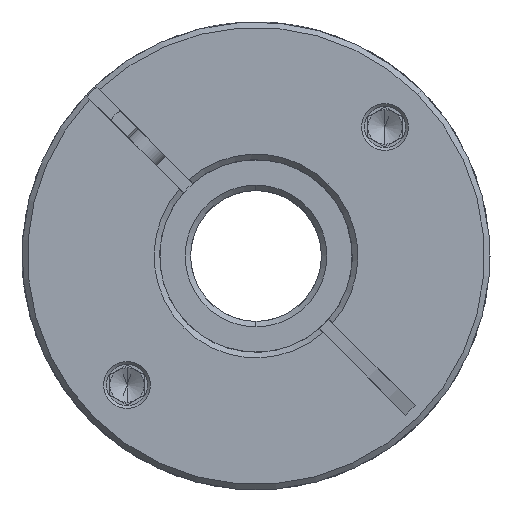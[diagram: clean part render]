
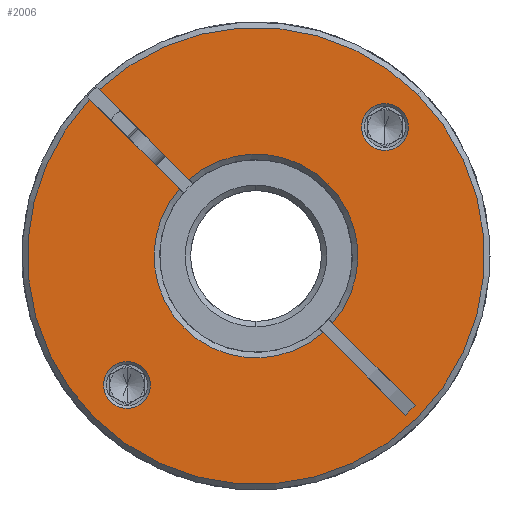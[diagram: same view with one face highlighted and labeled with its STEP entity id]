
A CAD part, front view. The second image highlights one B-rep face of the part: STEP entity #2006.
In plain terms, the highlighted planar face has unit normal (0, -1, 0).
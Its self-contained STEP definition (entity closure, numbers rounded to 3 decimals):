
#104 = CARTESIAN_POINT ( 'NONE',  ( 18.988, -67.045, 44.862 ) ) ;
#139 = ORIENTED_EDGE ( 'NONE', *, *, #16829, .T. ) ;
#522 = CARTESIAN_POINT ( 'NONE',  ( -12.469, -67.045, 79.148 ) ) ;
#524 = LINE ( 'NONE', #104, #7787 ) ;
#939 = AXIS2_PLACEMENT_3D ( 'NONE', #4760, #16400, #3404 ) ;
#1053 = VERTEX_POINT ( 'NONE', #3156 ) ;
#1165 = CARTESIAN_POINT ( 'NONE',  ( -26.211, -67.045, 44.524 ) ) ;
#1292 = DIRECTION ( 'NONE',  ( 0.707, 0., 0.707 ) ) ;
#1477 = CARTESIAN_POINT ( 'NONE',  ( -21.473, -67.045, 49.262 ) ) ;
#1891 = VECTOR ( 'NONE', #8295, 1000. ) ;
#1942 = EDGE_CURVE ( 'NONE', #17531, #2303, #8207, .T. ) ;
#2006 = ADVANCED_FACE ( 'NONE', ( #18612, #20946, #17578 ), #13340, .T. ) ;
#2303 = VERTEX_POINT ( 'NONE', #1165 ) ;
#2388 = VERTEX_POINT ( 'NONE', #18225 ) ;
#2716 = CARTESIAN_POINT ( 'NONE',  ( 18.407, -67.045, 89.142 ) ) ;
#3156 = CARTESIAN_POINT ( 'NONE',  ( -19.069, -67.045, 51.666 ) ) ;
#3312 = AXIS2_PLACEMENT_3D ( 'NONE', #20678, #10597, #5788 ) ;
#3392 = EDGE_CURVE ( 'NONE', #13677, #2388, #3955, .T. ) ;
#3404 = DIRECTION ( 'NONE',  ( 0.707, 0., 0.707 ) ) ;
#3461 = VERTEX_POINT ( 'NONE', #17049 ) ;
#3499 = CARTESIAN_POINT ( 'NONE',  ( -2.028, -67.045, 68.707 ) ) ;
#3558 = AXIS2_PLACEMENT_3D ( 'NONE', #1477, #6719, #5092 ) ;
#3841 = EDGE_LOOP ( 'NONE', ( #12519, #19449, #14983, #139, #11684, #17302, #9684, #6046, #15603, #18844, #6224 ) ) ;
#3955 = LINE ( 'NONE', #15331, #10973 ) ;
#4216 = ORIENTED_EDGE ( 'NONE', *, *, #20061, .T. ) ;
#4671 = EDGE_CURVE ( 'NONE', #2388, #12057, #524, .T. ) ;
#4760 = CARTESIAN_POINT ( 'NONE',  ( -2.735, -67.045, 68. ) ) ;
#4819 = DIRECTION ( 'NONE',  ( 0.707, 0., 0.707 ) ) ;
#5092 = DIRECTION ( 'NONE',  ( 0.707, 0., 0.707 ) ) ;
#5101 = CIRCLE ( 'NONE', #8397, 3.4 ) ;
#5456 = DIRECTION ( 'NONE',  ( 0.707, 0., 0.707 ) ) ;
#5686 = AXIS2_PLACEMENT_3D ( 'NONE', #9898, #14756, #4819 ) ;
#5788 = DIRECTION ( 'NONE',  ( 0.707, 0., 0.707 ) ) ;
#6046 = ORIENTED_EDGE ( 'NONE', *, *, #3392, .T. ) ;
#6224 = ORIENTED_EDGE ( 'NONE', *, *, #13357, .T. ) ;
#6229 = CARTESIAN_POINT ( 'NONE',  ( -23.878, -67.045, 46.858 ) ) ;
#6247 = LINE ( 'NONE', #3499, #18974 ) ;
#6719 = DIRECTION ( 'NONE',  ( 0., 1., 0. ) ) ;
#6861 = CARTESIAN_POINT ( 'NONE',  ( -3.442, -67.045, 67.293 ) ) ;
#7206 = CARTESIAN_POINT ( 'NONE',  ( -2.735, -67.045, 68. ) ) ;
#7290 = CIRCLE ( 'NONE', #10488, 3.4 ) ;
#7293 = DIRECTION ( 'NONE',  ( 0.707, 0., 0.707 ) ) ;
#7387 = VERTEX_POINT ( 'NONE', #522 ) ;
#7618 = CARTESIAN_POINT ( 'NONE',  ( -13.883, -67.045, 77.734 ) ) ;
#7787 = VECTOR ( 'NONE', #11710, 1000. ) ;
#8207 = CIRCLE ( 'NONE', #16542, 33.2 ) ;
#8238 = CIRCLE ( 'NONE', #3558, 3.4 ) ;
#8295 = DIRECTION ( 'NONE',  ( 0.707, 0., -0.707 ) ) ;
#8397 = AXIS2_PLACEMENT_3D ( 'NONE', #9351, #11460, #14773 ) ;
#8407 = DIRECTION ( 'NONE',  ( 0.707, 0., -0.707 ) ) ;
#8528 = AXIS2_PLACEMENT_3D ( 'NONE', #8890, #10575, #7293 ) ;
#8886 = VERTEX_POINT ( 'NONE', #18596 ) ;
#8890 = CARTESIAN_POINT ( 'NONE',  ( -2.735, -67.045, 68. ) ) ;
#8945 = CARTESIAN_POINT ( 'NONE',  ( -21.473, -67.045, 49.262 ) ) ;
#9092 = CARTESIAN_POINT ( 'NONE',  ( -2.735, -67.045, 68. ) ) ;
#9144 = VERTEX_POINT ( 'NONE', #6229 ) ;
#9267 = LINE ( 'NONE', #16727, #20212 ) ;
#9290 = CARTESIAN_POINT ( 'NONE',  ( 6.999, -67.045, 56.852 ) ) ;
#9351 = CARTESIAN_POINT ( 'NONE',  ( 16.003, -67.045, 86.738 ) ) ;
#9674 = LINE ( 'NONE', #6861, #1891 ) ;
#9684 = ORIENTED_EDGE ( 'NONE', *, *, #19784, .T. ) ;
#9707 = DIRECTION ( 'NONE',  ( 0., 1., 0. ) ) ;
#9852 = DIRECTION ( 'NONE',  ( 0.707, 0., 0.707 ) ) ;
#9898 = CARTESIAN_POINT ( 'NONE',  ( -2.735, -67.045, 68. ) ) ;
#10488 = AXIS2_PLACEMENT_3D ( 'NONE', #8945, #17222, #15416 ) ;
#10534 = EDGE_CURVE ( 'NONE', #1053, #9144, #7290, .T. ) ;
#10575 = DIRECTION ( 'NONE',  ( 0., 1., 0. ) ) ;
#10592 = AXIS2_PLACEMENT_3D ( 'NONE', #7206, #17016, #5456 ) ;
#10597 = DIRECTION ( 'NONE',  ( 0., 1., 0. ) ) ;
#10973 = VECTOR ( 'NONE', #16864, 1000. ) ;
#11107 = EDGE_CURVE ( 'NONE', #3461, #7387, #6247, .T. ) ;
#11460 = DIRECTION ( 'NONE',  ( 0., 1., 0. ) ) ;
#11684 = ORIENTED_EDGE ( 'NONE', *, *, #11107, .T. ) ;
#11710 = DIRECTION ( 'NONE',  ( -0.707, 0., -0.707 ) ) ;
#12057 = VERTEX_POINT ( 'NONE', #17558 ) ;
#12236 = CIRCLE ( 'NONE', #17841, 3.4 ) ;
#12519 = ORIENTED_EDGE ( 'NONE', *, *, #12638, .F. ) ;
#12638 = EDGE_CURVE ( 'NONE', #17531, #15766, #9267, .T. ) ;
#12848 = CARTESIAN_POINT ( 'NONE',  ( 7.73, -67.045, 78.465 ) ) ;
#12960 = CARTESIAN_POINT ( 'NONE',  ( -26.908, -67.045, 90.758 ) ) ;
#13261 = CARTESIAN_POINT ( 'NONE',  ( -2.735, -67.045, 68. ) ) ;
#13340 = PLANE ( 'NONE',  #939 ) ;
#13357 = EDGE_CURVE ( 'NONE', #15695, #15766, #18884, .T. ) ;
#13522 = CIRCLE ( 'NONE', #10592, 33.2 ) ;
#13677 = VERTEX_POINT ( 'NONE', #15145 ) ;
#14015 = DIRECTION ( 'NONE',  ( 0., 1., 0. ) ) ;
#14756 = DIRECTION ( 'NONE',  ( 0., -1., 0. ) ) ;
#14773 = DIRECTION ( 'NONE',  ( 0.707, 0., 0.707 ) ) ;
#14820 = DIRECTION ( 'NONE',  ( 0.707, 0., -0.707 ) ) ;
#14983 = ORIENTED_EDGE ( 'NONE', *, *, #17835, .T. ) ;
#15145 = CARTESIAN_POINT ( 'NONE',  ( 8.413, -67.045, 58.266 ) ) ;
#15272 = CIRCLE ( 'NONE', #8528, 14.8 ) ;
#15331 = CARTESIAN_POINT ( 'NONE',  ( -2.028, -67.045, 68.707 ) ) ;
#15416 = DIRECTION ( 'NONE',  ( 0.707, 0., 0.707 ) ) ;
#15603 = ORIENTED_EDGE ( 'NONE', *, *, #4671, .T. ) ;
#15674 = ORIENTED_EDGE ( 'NONE', *, *, #18331, .T. ) ;
#15679 = VERTEX_POINT ( 'NONE', #12848 ) ;
#15695 = VERTEX_POINT ( 'NONE', #9290 ) ;
#15766 = VERTEX_POINT ( 'NONE', #7618 ) ;
#15931 = CIRCLE ( 'NONE', #5686, 33.2 ) ;
#16400 = DIRECTION ( 'NONE',  ( 0., -1., 0. ) ) ;
#16475 = DIRECTION ( 'NONE',  ( 0., -1., 0. ) ) ;
#16542 = AXIS2_PLACEMENT_3D ( 'NONE', #13261, #16475, #9852 ) ;
#16727 = CARTESIAN_POINT ( 'NONE',  ( -3.442, -67.045, 67.293 ) ) ;
#16829 = EDGE_CURVE ( 'NONE', #16881, #3461, #15931, .T. ) ;
#16864 = DIRECTION ( 'NONE',  ( 0.707, 0., -0.707 ) ) ;
#16881 = VERTEX_POINT ( 'NONE', #19600 ) ;
#16885 = EDGE_CURVE ( 'NONE', #15695, #12057, #9674, .T. ) ;
#16958 = CIRCLE ( 'NONE', #20954, 14.8 ) ;
#16965 = EDGE_LOOP ( 'NONE', ( #15674, #18558 ) ) ;
#17016 = DIRECTION ( 'NONE',  ( 0., -1., 0. ) ) ;
#17049 = CARTESIAN_POINT ( 'NONE',  ( -25.493, -67.045, 92.172 ) ) ;
#17109 = EDGE_CURVE ( 'NONE', #7387, #15679, #16958, .T. ) ;
#17222 = DIRECTION ( 'NONE',  ( 0., 1., 0. ) ) ;
#17302 = ORIENTED_EDGE ( 'NONE', *, *, #17109, .T. ) ;
#17531 = VERTEX_POINT ( 'NONE', #12960 ) ;
#17558 = CARTESIAN_POINT ( 'NONE',  ( 18.988, -67.045, 44.862 ) ) ;
#17578 = FACE_OUTER_BOUND ( 'NONE', #3841, .T. ) ;
#17835 = EDGE_CURVE ( 'NONE', #2303, #16881, #13522, .T. ) ;
#17841 = AXIS2_PLACEMENT_3D ( 'NONE', #21178, #9707, #1292 ) ;
#18225 = CARTESIAN_POINT ( 'NONE',  ( 20.402, -67.045, 46.277 ) ) ;
#18331 = EDGE_CURVE ( 'NONE', #19893, #8886, #12236, .T. ) ;
#18558 = ORIENTED_EDGE ( 'NONE', *, *, #21139, .T. ) ;
#18596 = CARTESIAN_POINT ( 'NONE',  ( 13.599, -67.045, 84.334 ) ) ;
#18612 = FACE_BOUND ( 'NONE', #16965, .T. ) ;
#18844 = ORIENTED_EDGE ( 'NONE', *, *, #16885, .F. ) ;
#18884 = CIRCLE ( 'NONE', #3312, 14.8 ) ;
#18974 = VECTOR ( 'NONE', #8407, 1000. ) ;
#19449 = ORIENTED_EDGE ( 'NONE', *, *, #1942, .T. ) ;
#19600 = CARTESIAN_POINT ( 'NONE',  ( 20.741, -67.045, 91.476 ) ) ;
#19784 = EDGE_CURVE ( 'NONE', #15679, #13677, #15272, .T. ) ;
#19893 = VERTEX_POINT ( 'NONE', #2716 ) ;
#20061 = EDGE_CURVE ( 'NONE', #9144, #1053, #8238, .T. ) ;
#20212 = VECTOR ( 'NONE', #14820, 1000. ) ;
#20678 = CARTESIAN_POINT ( 'NONE',  ( -2.735, -67.045, 68. ) ) ;
#20712 = DIRECTION ( 'NONE',  ( 0.707, 0., 0.707 ) ) ;
#20903 = EDGE_LOOP ( 'NONE', ( #21114, #4216 ) ) ;
#20946 = FACE_BOUND ( 'NONE', #20903, .T. ) ;
#20954 = AXIS2_PLACEMENT_3D ( 'NONE', #9092, #14015, #20712 ) ;
#21114 = ORIENTED_EDGE ( 'NONE', *, *, #10534, .T. ) ;
#21139 = EDGE_CURVE ( 'NONE', #8886, #19893, #5101, .T. ) ;
#21178 = CARTESIAN_POINT ( 'NONE',  ( 16.003, -67.045, 86.738 ) ) ;
